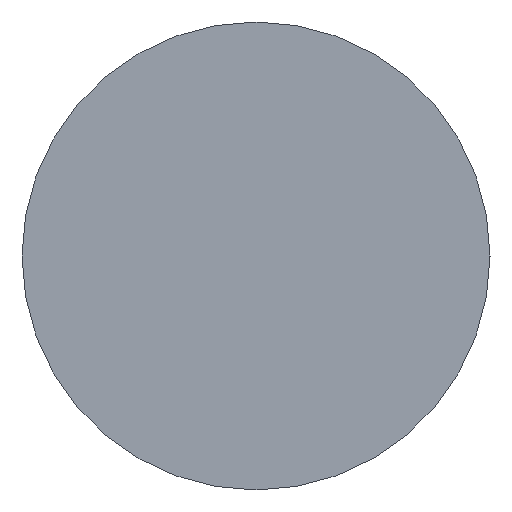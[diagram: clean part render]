
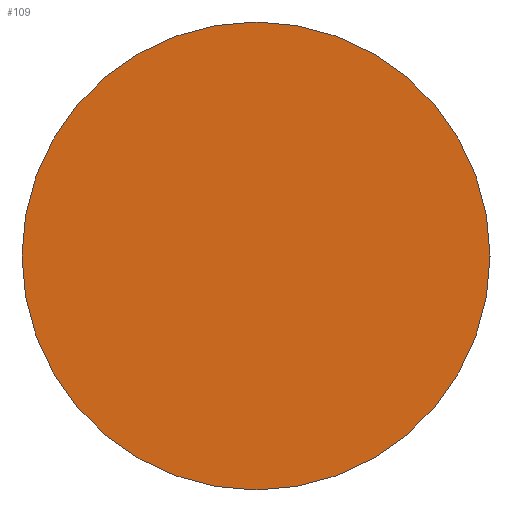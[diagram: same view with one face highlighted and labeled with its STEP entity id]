
A CAD part, left-side view. The second image highlights one B-rep face of the part: STEP entity #109.
In plain terms, the highlighted planar face has unit normal (-1, 0, 0).
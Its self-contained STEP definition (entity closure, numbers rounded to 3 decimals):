
#31 = CYLINDRICAL_SURFACE('',#32,2.);
#32 = AXIS2_PLACEMENT_3D('',#33,#34,#35);
#33 = CARTESIAN_POINT('',(21.,34.,40.));
#34 = DIRECTION('',(1.,0.,0.));
#35 = DIRECTION('',(-0.,0.,1.));
#56 = VERTEX_POINT('',#57);
#57 = CARTESIAN_POINT('',(21.,34.,42.));
#78 = EDGE_CURVE('',#56,#56,#79,.T.);
#79 = SURFACE_CURVE('',#80,(#85,#92),.PCURVE_S1.);
#80 = CIRCLE('',#81,2.);
#81 = AXIS2_PLACEMENT_3D('',#82,#83,#84);
#82 = CARTESIAN_POINT('',(21.,34.,40.));
#83 = DIRECTION('',(1.,0.,0.));
#84 = DIRECTION('',(-0.,0.,1.));
#85 = PCURVE('',#31,#86);
#86 = DEFINITIONAL_REPRESENTATION('',(#87),#91);
#87 = LINE('',#88,#89);
#88 = CARTESIAN_POINT('',(0.,0.));
#89 = VECTOR('',#90,1.);
#90 = DIRECTION('',(1.,0.));
#91 = ( GEOMETRIC_REPRESENTATION_CONTEXT(2) 
PARAMETRIC_REPRESENTATION_CONTEXT() REPRESENTATION_CONTEXT('2D SPACE',''
  ) );
#92 = PCURVE('',#93,#98);
#93 = PLANE('',#94);
#94 = AXIS2_PLACEMENT_3D('',#95,#96,#97);
#95 = CARTESIAN_POINT('',(21.,34.,40.));
#96 = DIRECTION('',(1.,0.,0.));
#97 = DIRECTION('',(-0.,0.,1.));
#98 = DEFINITIONAL_REPRESENTATION('',(#99),#103);
#99 = CIRCLE('',#100,2.);
#100 = AXIS2_PLACEMENT_2D('',#101,#102);
#101 = CARTESIAN_POINT('',(0.,0.));
#102 = DIRECTION('',(1.,0.));
#103 = ( GEOMETRIC_REPRESENTATION_CONTEXT(2) 
PARAMETRIC_REPRESENTATION_CONTEXT() REPRESENTATION_CONTEXT('2D SPACE',''
  ) );
#109 = ADVANCED_FACE('',(#110),#93,.F.);
#110 = FACE_BOUND('',#111,.T.);
#111 = EDGE_LOOP('',(#112));
#112 = ORIENTED_EDGE('',*,*,#78,.F.);
